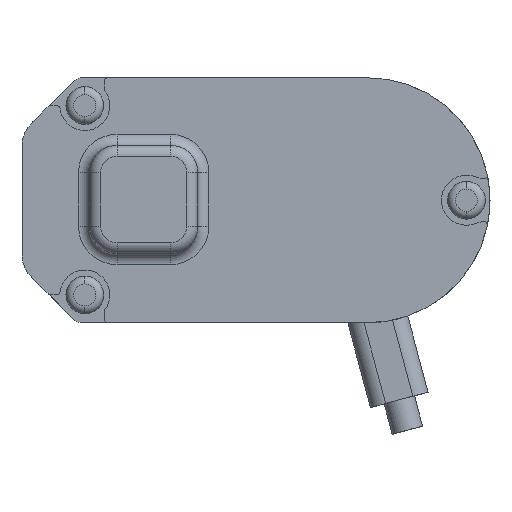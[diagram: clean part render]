
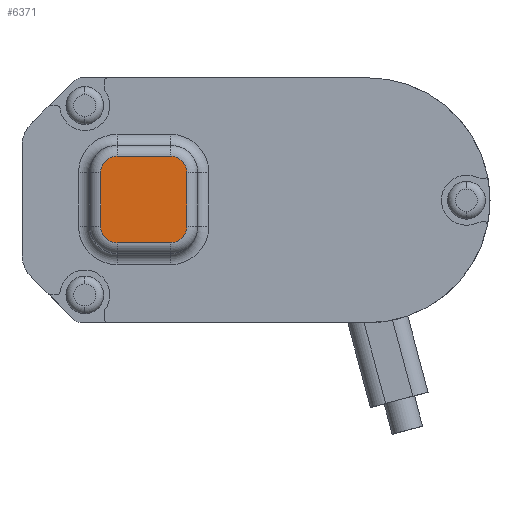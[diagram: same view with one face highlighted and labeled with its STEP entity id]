
A CAD part, front view. The second image highlights one B-rep face of the part: STEP entity #6371.
In plain terms, the highlighted planar face has unit normal (0, -1, 0).
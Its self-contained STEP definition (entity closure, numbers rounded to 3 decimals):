
#66 = CARTESIAN_POINT ( 'NONE',  ( 26.67, -19.05, -24.003 ) ) ;
#378 = CARTESIAN_POINT ( 'NONE',  ( 24.003, -19.05, -12.7 ) ) ;
#422 = VERTEX_POINT ( 'NONE', #378 ) ;
#476 = LINE ( 'NONE', #3804, #7939 ) ;
#490 = DIRECTION ( 'NONE',  ( 0., -1., 0. ) ) ;
#704 = PLANE ( 'NONE',  #4315 ) ;
#873 = CIRCLE ( 'NONE', #7351, 2.667 ) ;
#947 = ORIENTED_EDGE ( 'NONE', *, *, #7115, .T. ) ;
#973 = EDGE_CURVE ( 'NONE', #2139, #4988, #873, .T. ) ;
#1047 = CARTESIAN_POINT ( 'NONE',  ( 15.367, -19.05, -12.7 ) ) ;
#1119 = VERTEX_POINT ( 'NONE', #4574 ) ;
#1121 = DIRECTION ( 'NONE',  ( 0., 0., -1. ) ) ;
#1425 = EDGE_CURVE ( 'NONE', #2384, #7232, #7133, .T. ) ;
#1470 = EDGE_CURVE ( 'NONE', #7232, #422, #4876, .T. ) ;
#1477 = ORIENTED_EDGE ( 'NONE', *, *, #1470, .T. ) ;
#1495 = VECTOR ( 'NONE', #3723, 1000. ) ;
#1733 = DIRECTION ( 'NONE',  ( -1., 0., 0. ) ) ;
#1742 = CARTESIAN_POINT ( 'NONE',  ( 15.367, -19.05, -24.003 ) ) ;
#2139 = VERTEX_POINT ( 'NONE', #6463 ) ;
#2183 = CARTESIAN_POINT ( 'NONE',  ( 24.003, -19.05, -26.67 ) ) ;
#2384 = VERTEX_POINT ( 'NONE', #66 ) ;
#2421 = DIRECTION ( 'NONE',  ( 0., 0., -1. ) ) ;
#2631 = FACE_OUTER_BOUND ( 'NONE', #6433, .T. ) ;
#2737 = EDGE_CURVE ( 'NONE', #5181, #3422, #3190, .T. ) ;
#2762 = LINE ( 'NONE', #1047, #7982 ) ;
#2769 = CARTESIAN_POINT ( 'NONE',  ( 15.367, -19.05, -15.367 ) ) ;
#2980 = AXIS2_PLACEMENT_3D ( 'NONE', #4558, #490, #5230 ) ;
#3185 = CARTESIAN_POINT ( 'NONE',  ( 15.367, -19.05, -15.367 ) ) ;
#3190 = CIRCLE ( 'NONE', #6360, 2.667 ) ;
#3215 = DIRECTION ( 'NONE',  ( 0., -1., 0. ) ) ;
#3311 = ORIENTED_EDGE ( 'NONE', *, *, #2737, .T. ) ;
#3348 = VECTOR ( 'NONE', #6232, 1000. ) ;
#3422 = VERTEX_POINT ( 'NONE', #6887 ) ;
#3453 = DIRECTION ( 'NONE',  ( 0., 0., -1. ) ) ;
#3509 = ORIENTED_EDGE ( 'NONE', *, *, #4924, .T. ) ;
#3647 = CARTESIAN_POINT ( 'NONE',  ( 26.67, -19.05, -15.367 ) ) ;
#3723 = DIRECTION ( 'NONE',  ( 0., 0., 1. ) ) ;
#3804 = CARTESIAN_POINT ( 'NONE',  ( 12.7, -19.05, -24.003 ) ) ;
#3880 = AXIS2_PLACEMENT_3D ( 'NONE', #7166, #7812, #1121 ) ;
#4315 = AXIS2_PLACEMENT_3D ( 'NONE', #2769, #7506, #3453 ) ;
#4372 = CARTESIAN_POINT ( 'NONE',  ( 26.67, -19.05, -15.367 ) ) ;
#4508 = EDGE_CURVE ( 'NONE', #1119, #2384, #5083, .T. ) ;
#4558 = CARTESIAN_POINT ( 'NONE',  ( 24.003, -19.05, -24.003 ) ) ;
#4574 = CARTESIAN_POINT ( 'NONE',  ( 24.003, -19.05, -26.67 ) ) ;
#4864 = ORIENTED_EDGE ( 'NONE', *, *, #4508, .T. ) ;
#4876 = CIRCLE ( 'NONE', #3880, 2.667 ) ;
#4924 = EDGE_CURVE ( 'NONE', #422, #2139, #2762, .T. ) ;
#4988 = VERTEX_POINT ( 'NONE', #7120 ) ;
#5083 = CIRCLE ( 'NONE', #2980, 2.667 ) ;
#5181 = VERTEX_POINT ( 'NONE', #5253 ) ;
#5218 = ORIENTED_EDGE ( 'NONE', *, *, #973, .T. ) ;
#5230 = DIRECTION ( 'NONE',  ( 0., 0., -1. ) ) ;
#5253 = CARTESIAN_POINT ( 'NONE',  ( 12.7, -19.05, -24.003 ) ) ;
#6232 = DIRECTION ( 'NONE',  ( 1., 0., 0. ) ) ;
#6360 = AXIS2_PLACEMENT_3D ( 'NONE', #1742, #6476, #2421 ) ;
#6371 = ADVANCED_FACE ( 'NONE', ( #2631 ), #704, .T. ) ;
#6433 = EDGE_LOOP ( 'NONE', ( #1477, #3509, #5218, #8677, #3311, #947, #4864, #8755 ) ) ;
#6463 = CARTESIAN_POINT ( 'NONE',  ( 15.367, -19.05, -12.7 ) ) ;
#6476 = DIRECTION ( 'NONE',  ( 0., -1., 0. ) ) ;
#6715 = EDGE_CURVE ( 'NONE', #4988, #5181, #476, .T. ) ;
#6887 = CARTESIAN_POINT ( 'NONE',  ( 15.367, -19.05, -26.67 ) ) ;
#6932 = LINE ( 'NONE', #2183, #3348 ) ;
#7115 = EDGE_CURVE ( 'NONE', #3422, #1119, #6932, .T. ) ;
#7120 = CARTESIAN_POINT ( 'NONE',  ( 12.7, -19.05, -15.367 ) ) ;
#7133 = LINE ( 'NONE', #4372, #1495 ) ;
#7166 = CARTESIAN_POINT ( 'NONE',  ( 24.003, -19.05, -15.367 ) ) ;
#7232 = VERTEX_POINT ( 'NONE', #3647 ) ;
#7237 = DIRECTION ( 'NONE',  ( 0., 0., -1. ) ) ;
#7351 = AXIS2_PLACEMENT_3D ( 'NONE', #3185, #3215, #7237 ) ;
#7506 = DIRECTION ( 'NONE',  ( 0., -1., 0. ) ) ;
#7812 = DIRECTION ( 'NONE',  ( 0., -1., 0. ) ) ;
#7895 = DIRECTION ( 'NONE',  ( 0., 0., -1. ) ) ;
#7939 = VECTOR ( 'NONE', #7895, 1000. ) ;
#7982 = VECTOR ( 'NONE', #1733, 1000. ) ;
#8677 = ORIENTED_EDGE ( 'NONE', *, *, #6715, .T. ) ;
#8755 = ORIENTED_EDGE ( 'NONE', *, *, #1425, .T. ) ;
